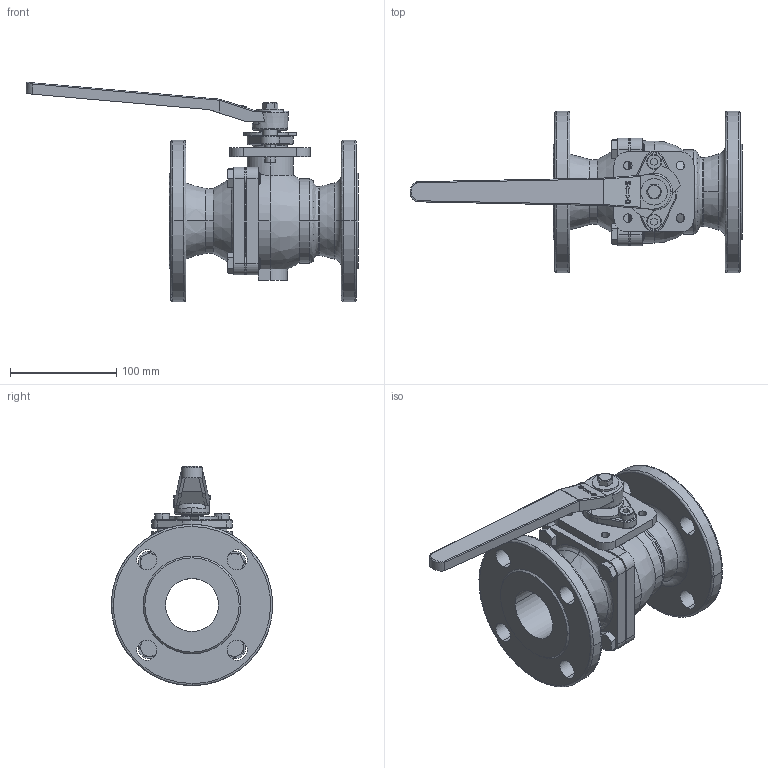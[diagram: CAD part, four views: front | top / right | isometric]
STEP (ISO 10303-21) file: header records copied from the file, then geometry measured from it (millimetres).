
FILE_DESCRIPTION(('Open CASCADE Model'),'2;1');
FILE_NAME('Open CASCADE Shape Model','2021-11-19T08:54:48',('Author'),( 'Open CASCADE'),'Open CASCADE STEP processor 7.3','Open CASCADE 7.3' ,'Unknown');
FILE_SCHEMA(('AUTOMOTIVE_DESIGN { 1 0 10303 214 1 1 1 1 }'));
Length unit declared in the file: millimetre
Products named in the file (24): Open CASCADE STEP translator 7.3 1; Open CASCADE STEP translator 7.3 1.1; Open CASCADE STEP translator 7.3 1.2; Open CASCADE STEP translator 7.3 1.3; Open CASCADE STEP translator 7.3 1.4; Open CASCADE STEP translator 7.3 1.5; Open CASCADE STEP translator 7.3 1.6; Open CASCADE STEP translator 7.3 1.7; Open CASCADE STEP translator 7.3 1.8; Open CASCADE STEP translator 7.3 1.9; Open CASCADE STEP translator 7.3 1.10; Open CASCADE STEP translator 7.3 1.11; Open CASCADE STEP translator 7.3 1.12; Open CASCADE STEP translator 7.3 1.13; Open CASCADE STEP translator 7.3 1.14; Open CASCADE STEP translator 7.3 1.15; Open CASCADE STEP translator 7.3 1.16; Open CASCADE STEP translator 7.3 1.17; Open CASCADE STEP translator 7.3 1.18; Open CASCADE STEP translator 7.3 1.19; Open CASCADE STEP translator 7.3 1.20; Open CASCADE STEP translator 7.3 1.21; Open CASCADE STEP translator 7.3 1.22; Open CASCADE STEP translator 7.3 1.23
Assembly tree (23 placements, depth 2):
  Open CASCADE STEP translator 7.3 1
    Open CASCADE STEP translator 7.3 1.1
    Open CASCADE STEP translator 7.3 1.2
    Open CASCADE STEP translator 7.3 1.3
    Open CASCADE STEP translator 7.3 1.4
    Open CASCADE STEP translator 7.3 1.5
    Open CASCADE STEP translator 7.3 1.6
    Open CASCADE STEP translator 7.3 1.7
    Open CASCADE STEP translator 7.3 1.8
    Open CASCADE STEP translator 7.3 1.9
    Open CASCADE STEP translator 7.3 1.10
    Open CASCADE STEP translator 7.3 1.11
    Open CASCADE STEP translator 7.3 1.12
    Open CASCADE STEP translator 7.3 1.13
    Open CASCADE STEP translator 7.3 1.14
    Open CASCADE STEP translator 7.3 1.15
    Open CASCADE STEP translator 7.3 1.16
    Open CASCADE STEP translator 7.3 1.17
    Open CASCADE STEP translator 7.3 1.18
    Open CASCADE STEP translator 7.3 1.19
    Open CASCADE STEP translator 7.3 1.20
    Open CASCADE STEP translator 7.3 1.21
    Open CASCADE STEP translator 7.3 1.22
    Open CASCADE STEP translator 7.3 1.23
Bounding box: 312.88 x 152 x 206.65 mm (x, y, z)
Volume: 1110820.3 mm3; surface area: 286189 mm2
Topology: 23 solids, 23 shells, 644 faces, 1620 edges, 1049 vertices
Faces by surface type: cylinder 272, plane 213, cone 82, bspline 73, torus 4
Entity records: 84233 total; most frequent: CARTESIAN_POINT 53156, DIRECTION 5310, ORIENTED_EDGE 3232, PCURVE 3232, DEFINITIONAL_REPRESENTATION 3232, LINE 2697, VECTOR 2697, EDGE_CURVE 1616
